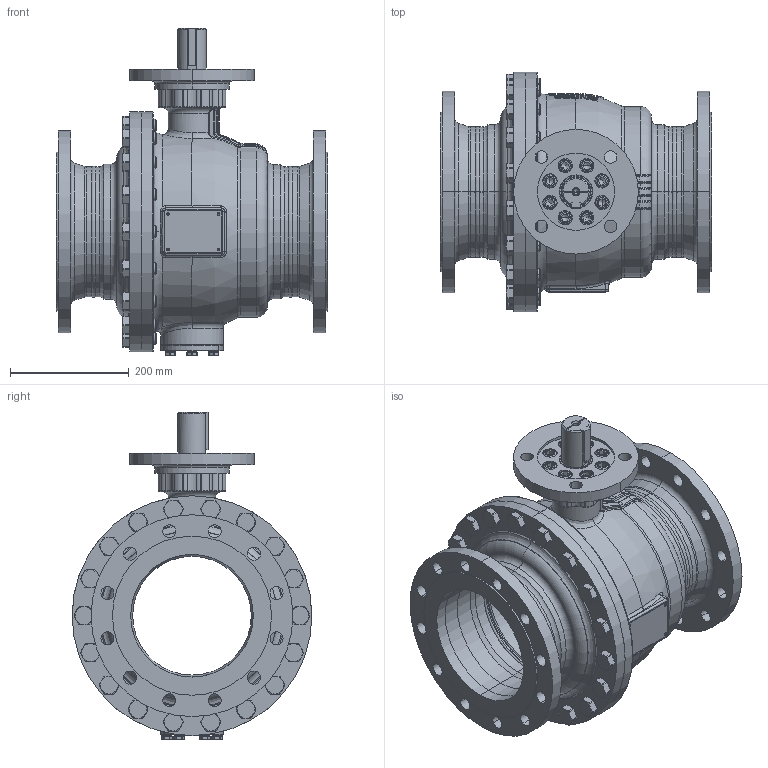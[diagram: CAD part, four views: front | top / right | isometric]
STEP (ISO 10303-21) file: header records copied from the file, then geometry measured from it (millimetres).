
FILE_DESCRIPTION((''),'2;1');
FILE_NAME('KHI-F_200_PN016-F16-P_SW0001','2026-02-05T13:14:54',('fischerkl'),('KLINGER'),'CREO PARAMETRIC BY PTC INC, 2023014','CREO PARAMETRIC BY PTC INC, 2023014','');
FILE_SCHEMA(('CONFIG_CONTROL_DESIGN'));
Products named in the file (1): KHI-F_200_PN016-F16-P_SW0001
Bounding box: 457 x 404 x 552.2 mm (x, y, z)
Volume: 12701015.6 mm3; surface area: 2274071.3 mm2
Topology: 1 solids, 4 shells, 2937 faces, 7332 edges, 4544 vertices
Faces by surface type: plane 1414, cylinder 720, cone 360, torus 305, bspline 108, sphere 30
Entity records: 120845 total; most frequent: CARTESIAN_POINT 51584, ORIENTED_EDGE 14612, DIRECTION 14362, EDGE_CURVE 7306, AXIS2_PLACEMENT_3D 5541, VERTEX_POINT 4544, VECTOR 3280, LINE 3280
